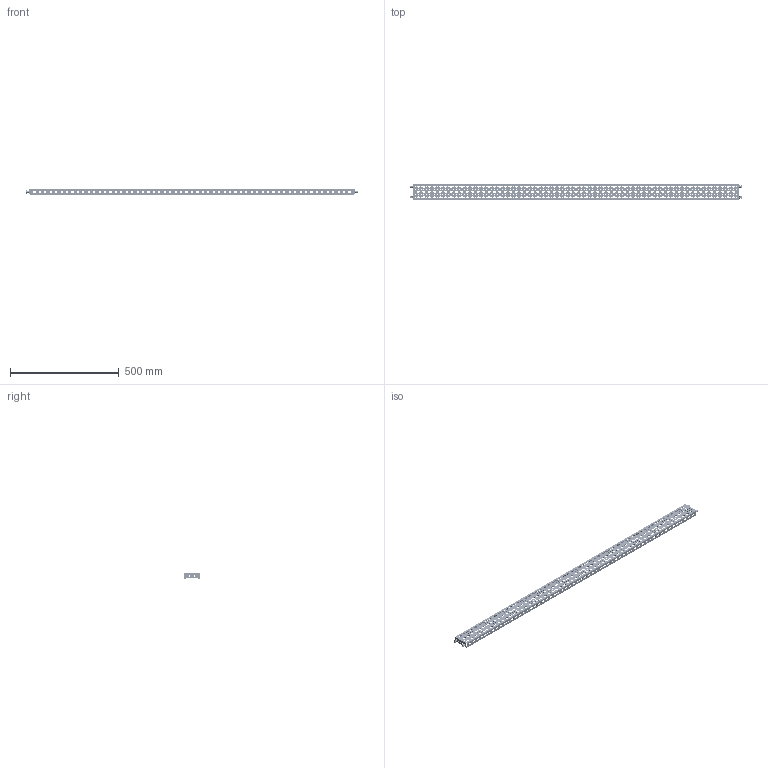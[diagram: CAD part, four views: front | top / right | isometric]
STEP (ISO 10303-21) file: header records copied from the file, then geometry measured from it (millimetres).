
FILE_DESCRIPTION(('Open CASCADE Model'),'2;1');
FILE_NAME('Open CASCADE Shape Model','2025-02-21T17:51:08',('Author'),( 'Open CASCADE'),'Open CASCADE STEP processor 7.8','Open CASCADE 7.8' ,'Unknown');
FILE_SCHEMA(('AUTOMOTIVE_DESIGN { 1 0 10303 214 1 1 1 1 }'));
Length unit declared in the file: millimetre
Products named in the file (4): Compound1; Solid1; Solid2; Solid3
Assembly tree (9 placements, depth 2):
  Compound1
    Solid1
    Solid2  x4
    Solid3  x4
Bounding box: 1527.6 x 75 x 25 mm (x, y, z)
Volume: 257733.9 mm3; surface area: 379356.9 mm2
Topology: 13 solids, 13 shells, 6062 faces, 18169 edges, 12125 vertices
Faces by surface type: cylinder 3654, plane 2132, bspline 176, torus 56, cone 40, sphere 4
Full cylindrical faces by diameter (mm): 4.2 x538, 5.5 x4, 6 x4, 6.5 x10, 8.3 x4, 12 x4
Entity records: 197756 total; most frequent: CARTESIAN_POINT 38392, DIRECTION 34338, ORIENTED_EDGE 33444, EDGE_CURVE 16722, AXIS2_PLACEMENT_3D 12889, VERTEX_POINT 11228, LINE 8560, VECTOR 8560
